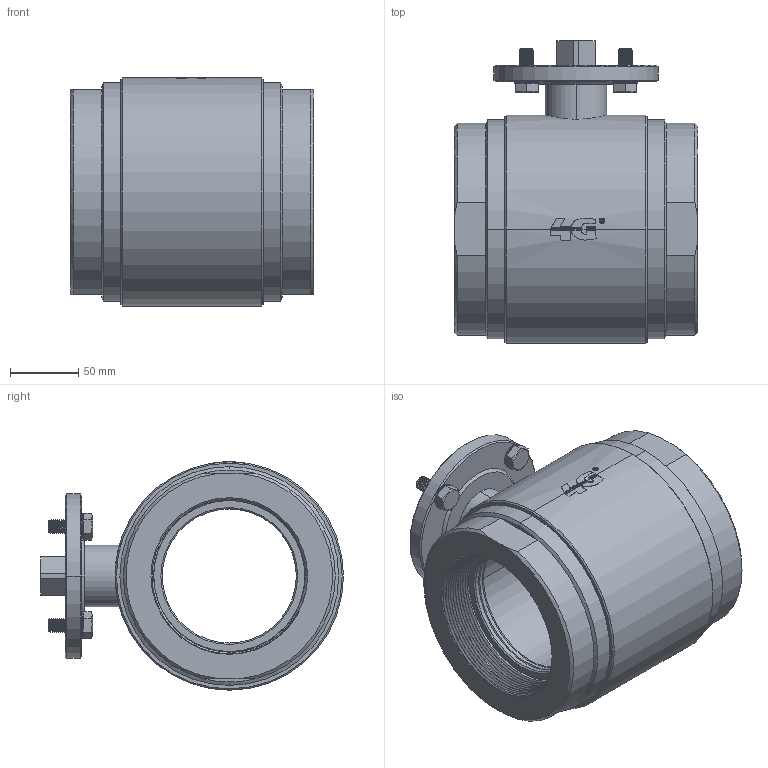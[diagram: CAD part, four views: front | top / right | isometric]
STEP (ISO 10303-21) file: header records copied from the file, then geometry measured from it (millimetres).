
FILE_DESCRIPTION((''),'2;1');
FILE_NAME('1030016541F','2017-01-17T',('UFFICIO TECNICO'),('CDM Tecnoconsulting'),'CREO PARAMETRIC BY PTC INC, 2015290','CREO PARAMETRIC BY PTC INC, 2015290','');
FILE_SCHEMA(('CONFIG_CONTROL_DESIGN'));
Products named in the file (1): 1030016541F
Bounding box: 178 x 221.5 x 167 mm (x, y, z)
Surface area: 247915.9 mm2 (no closed solid volume)
Topology: 0 solids, 40 shells, 901 faces, 3555 edges, 2623 vertices
Faces by surface type: plane 347, cylinder 299, cone 164, bspline 74, extrusion 11, torus 6
Entity records: 69026 total; most frequent: CARTESIAN_POINT 42574, ORIENTED_EDGE 5480, DIRECTION 4470, EDGE_CURVE 3553, VERTEX_POINT 2623, AXIS2_PLACEMENT_3D 1606, B_SPLINE_CURVE_WITH_KNOTS 1527, VECTOR 1258
